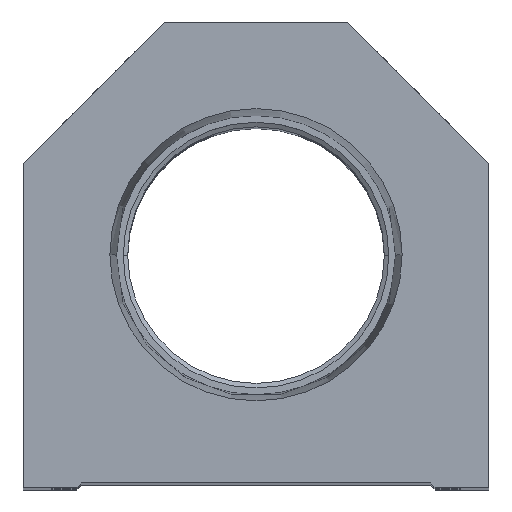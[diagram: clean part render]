
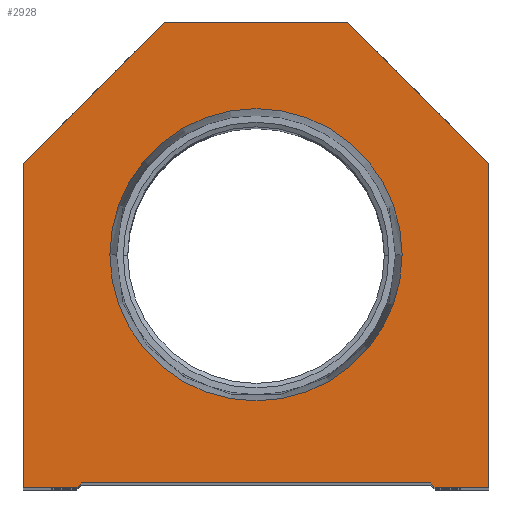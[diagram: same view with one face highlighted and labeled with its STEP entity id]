
A CAD part, top view. The second image highlights one B-rep face of the part: STEP entity #2928.
In plain terms, the highlighted planar face has unit normal (0, 0, 1).
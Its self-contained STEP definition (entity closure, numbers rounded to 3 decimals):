
#7 = CARTESIAN_POINT ( 'NONE',  ( -19.55, 0., 0. ) ) ;
#210 = VECTOR ( 'NONE', #11937, 1000. ) ;
#234 = DIRECTION ( 'NONE',  ( 1., 0., 0. ) ) ;
#527 = EDGE_LOOP ( 'NONE', ( #10510, #13316 ) ) ;
#1099 = VERTEX_POINT ( 'NONE', #15004 ) ;
#1162 = VERTEX_POINT ( 'NONE', #11616 ) ;
#1197 = FACE_OUTER_BOUND ( 'NONE', #7368, .T. ) ;
#1264 = CARTESIAN_POINT ( 'NONE',  ( 15.947, 25.4, 0. ) ) ;
#1647 = VERTEX_POINT ( 'NONE', #7 ) ;
#1771 = VERTEX_POINT ( 'NONE', #9565 ) ;
#1878 = VERTEX_POINT ( 'NONE', #1264 ) ;
#2111 = CARTESIAN_POINT ( 'NONE',  ( -25.4, 35.4, 0. ) ) ;
#2140 = DIRECTION ( 'NONE',  ( 0., 0., 1. ) ) ;
#2249 = CIRCLE ( 'NONE', #6186, 15.947 ) ;
#2593 = CARTESIAN_POINT ( 'NONE',  ( 0., 25.4, 0. ) ) ;
#2641 = LINE ( 'NONE', #11979, #14754 ) ;
#2829 = CARTESIAN_POINT ( 'NONE',  ( 0., 25.4, 0. ) ) ;
#2896 = ORIENTED_EDGE ( 'NONE', *, *, #14046, .T. ) ;
#2920 = DIRECTION ( 'NONE',  ( 1., 0., 0. ) ) ;
#2928 = ADVANCED_FACE ( 'NONE', ( #5029, #1197 ), #16937, .T. ) ;
#3326 = DIRECTION ( 'NONE',  ( -0.707, -0.707, 0. ) ) ;
#3442 = EDGE_CURVE ( 'NONE', #1647, #1162, #11061, .T. ) ;
#3943 = LINE ( 'NONE', #13143, #210 ) ;
#4019 = EDGE_CURVE ( 'NONE', #8985, #15964, #11686, .T. ) ;
#4361 = DIRECTION ( 'NONE',  ( 0.707, -0.707, 0. ) ) ;
#4584 = CARTESIAN_POINT ( 'NONE',  ( -25.4, 0., 0. ) ) ;
#4744 = VECTOR ( 'NONE', #4361, 1000. ) ;
#5029 = FACE_BOUND ( 'NONE', #527, .T. ) ;
#5038 = VECTOR ( 'NONE', #10468, 1000. ) ;
#5657 = LINE ( 'NONE', #12245, #7760 ) ;
#6036 = ORIENTED_EDGE ( 'NONE', *, *, #4019, .T. ) ;
#6099 = VECTOR ( 'NONE', #9558, 1000. ) ;
#6186 = AXIS2_PLACEMENT_3D ( 'NONE', #2593, #8112, #15738 ) ;
#6385 = EDGE_CURVE ( 'NONE', #1099, #12778, #16255, .T. ) ;
#6653 = ORIENTED_EDGE ( 'NONE', *, *, #15257, .T. ) ;
#6830 = ORIENTED_EDGE ( 'NONE', *, *, #12929, .T. ) ;
#6944 = ORIENTED_EDGE ( 'NONE', *, *, #15374, .T. ) ;
#7368 = EDGE_LOOP ( 'NONE', ( #15859, #14738, #6944, #15671, #6653, #2896, #15986, #6830, #6036, #7964 ) ) ;
#7760 = VECTOR ( 'NONE', #2920, 1000. ) ;
#7813 = CARTESIAN_POINT ( 'NONE',  ( 10., 50.8, 0. ) ) ;
#7964 = ORIENTED_EDGE ( 'NONE', *, *, #12273, .T. ) ;
#8030 = VECTOR ( 'NONE', #13955, 1000. ) ;
#8112 = DIRECTION ( 'NONE',  ( 0., 0., 1. ) ) ;
#8169 = DIRECTION ( 'NONE',  ( 0., 0., 1. ) ) ;
#8190 = LINE ( 'NONE', #13461, #6099 ) ;
#8356 = VECTOR ( 'NONE', #11238, 1000. ) ;
#8592 = CARTESIAN_POINT ( 'NONE',  ( 19.55, 0., 0. ) ) ;
#8985 = VERTEX_POINT ( 'NONE', #10896 ) ;
#9016 = CARTESIAN_POINT ( 'NONE',  ( 0., 0., 0. ) ) ;
#9196 = VECTOR ( 'NONE', #14962, 1000. ) ;
#9255 = LINE ( 'NONE', #10809, #5038 ) ;
#9271 = VECTOR ( 'NONE', #3326, 1000. ) ;
#9431 = EDGE_CURVE ( 'NONE', #15256, #1878, #16326, .T. ) ;
#9558 = DIRECTION ( 'NONE',  ( -0.707, 0.707, 0. ) ) ;
#9565 = CARTESIAN_POINT ( 'NONE',  ( 25.4, 35.4, 0. ) ) ;
#9673 = CARTESIAN_POINT ( 'NONE',  ( -9.775, 9.775, 0. ) ) ;
#9732 = EDGE_CURVE ( 'NONE', #1771, #9986, #8190, .T. ) ;
#9986 = VERTEX_POINT ( 'NONE', #7813 ) ;
#10024 = CARTESIAN_POINT ( 'NONE',  ( -25.4, 0., 0. ) ) ;
#10400 = DIRECTION ( 'NONE',  ( 1., 0., 0. ) ) ;
#10468 = DIRECTION ( 'NONE',  ( -1., 0., 0. ) ) ;
#10510 = ORIENTED_EDGE ( 'NONE', *, *, #15911, .F. ) ;
#10809 = CARTESIAN_POINT ( 'NONE',  ( 10., 50.8, 0. ) ) ;
#10868 = CARTESIAN_POINT ( 'NONE',  ( 9.775, 9.775, 0. ) ) ;
#10896 = CARTESIAN_POINT ( 'NONE',  ( -10., 50.8, 0. ) ) ;
#11061 = LINE ( 'NONE', #9673, #9196 ) ;
#11238 = DIRECTION ( 'NONE',  ( 0., -1., 0. ) ) ;
#11505 = LINE ( 'NONE', #10024, #8356 ) ;
#11595 = AXIS2_PLACEMENT_3D ( 'NONE', #2829, #8169, #234 ) ;
#11616 = CARTESIAN_POINT ( 'NONE',  ( -19.05, 0.5, 0. ) ) ;
#11686 = LINE ( 'NONE', #2111, #9271 ) ;
#11933 = AXIS2_PLACEMENT_3D ( 'NONE', #9016, #2140, #14126 ) ;
#11937 = DIRECTION ( 'NONE',  ( 0., 1., 0. ) ) ;
#11979 = CARTESIAN_POINT ( 'NONE',  ( -19.05, 0., 0. ) ) ;
#12245 = CARTESIAN_POINT ( 'NONE',  ( 19.05, 0., 0. ) ) ;
#12273 = EDGE_CURVE ( 'NONE', #15964, #14337, #11505, .T. ) ;
#12778 = VERTEX_POINT ( 'NONE', #8592 ) ;
#12929 = EDGE_CURVE ( 'NONE', #9986, #8985, #9255, .T. ) ;
#13143 = CARTESIAN_POINT ( 'NONE',  ( 25.4, 0., 0. ) ) ;
#13316 = ORIENTED_EDGE ( 'NONE', *, *, #9431, .F. ) ;
#13461 = CARTESIAN_POINT ( 'NONE',  ( 25.4, 35.4, 0. ) ) ;
#13584 = VERTEX_POINT ( 'NONE', #15188 ) ;
#13955 = DIRECTION ( 'NONE',  ( 1., 0., 0. ) ) ;
#14046 = EDGE_CURVE ( 'NONE', #13584, #1771, #3943, .T. ) ;
#14126 = DIRECTION ( 'NONE',  ( 1., 0., 0. ) ) ;
#14337 = VERTEX_POINT ( 'NONE', #4584 ) ;
#14738 = ORIENTED_EDGE ( 'NONE', *, *, #3442, .T. ) ;
#14754 = VECTOR ( 'NONE', #10400, 1000. ) ;
#14962 = DIRECTION ( 'NONE',  ( 0.707, 0.707, 0. ) ) ;
#15004 = CARTESIAN_POINT ( 'NONE',  ( 19.05, 0.5, 0. ) ) ;
#15188 = CARTESIAN_POINT ( 'NONE',  ( 25.4, 0., 0. ) ) ;
#15256 = VERTEX_POINT ( 'NONE', #15894 ) ;
#15257 = EDGE_CURVE ( 'NONE', #12778, #13584, #5657, .T. ) ;
#15374 = EDGE_CURVE ( 'NONE', #1162, #1099, #16905, .T. ) ;
#15671 = ORIENTED_EDGE ( 'NONE', *, *, #6385, .T. ) ;
#15738 = DIRECTION ( 'NONE',  ( 1., 0., 0. ) ) ;
#15859 = ORIENTED_EDGE ( 'NONE', *, *, #17095, .T. ) ;
#15894 = CARTESIAN_POINT ( 'NONE',  ( -15.947, 25.4, 0. ) ) ;
#15911 = EDGE_CURVE ( 'NONE', #1878, #15256, #2249, .T. ) ;
#15964 = VERTEX_POINT ( 'NONE', #17142 ) ;
#15986 = ORIENTED_EDGE ( 'NONE', *, *, #9732, .T. ) ;
#16255 = LINE ( 'NONE', #10868, #4744 ) ;
#16326 = CIRCLE ( 'NONE', #11595, 15.947 ) ;
#16575 = CARTESIAN_POINT ( 'NONE',  ( -19.05, 0.5, 0. ) ) ;
#16905 = LINE ( 'NONE', #16575, #8030 ) ;
#16937 = PLANE ( 'NONE',  #11933 ) ;
#17095 = EDGE_CURVE ( 'NONE', #14337, #1647, #2641, .T. ) ;
#17142 = CARTESIAN_POINT ( 'NONE',  ( -25.4, 35.4, 0. ) ) ;
